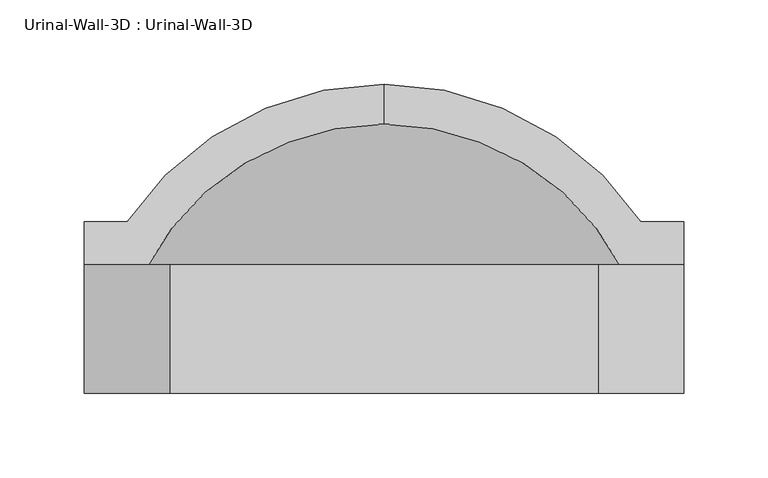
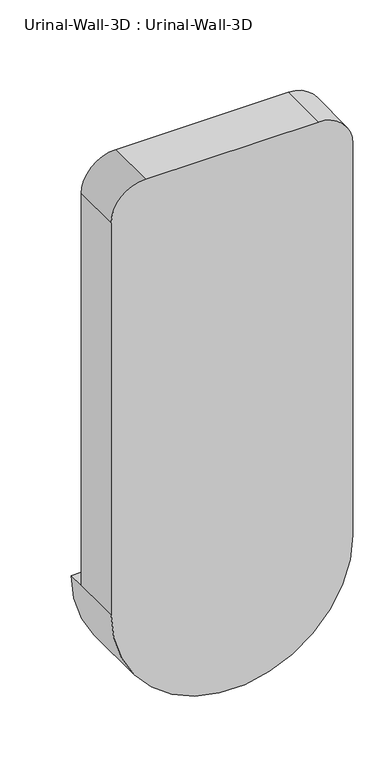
"""IFC4 building model written with IfcOpenShell, lengths in millimetres: flow terminal geometry, Urinal-Wall-3D : Urinal-Wall-3D."""

import ifcopenshell
import ifcopenshell.guid

model = None  # the IFC model being written
_history = None  # IfcOwnerHistory: only IFC2X3 demands one
_inside = {}  # id of a spatial element -> (the spatial element, [elements in it])
_under = {}  # id of a project, library or spatial element -> (it, [spatial elements below it])
_declared = {}  # id of a project -> (the project, [libraries it declares])
_typed = {}  # id of a type object -> (the type object, [elements of that type])
_made_of = {}  # id of a material, layer set ... -> (it, [elements and type objects made of it])


def new_model(schema):
    """Start an empty IFC model of exactly this schema.

    Asked for "IFC4X3", IfcOpenShell would pick the latest addendum, in which some entities
    have other attributes; the version numbers below select the first issue.
    IFC2X3 requires an IfcOwnerHistory on every rooted entity: one is made here for all.
    """
    global model, _history
    if schema == "IFC4X3":
        model = ifcopenshell.file(schema_version=(4, 3, 0, 0))
    else:
        model = ifcopenshell.file(schema=schema)
    _inside.clear()
    _under.clear()
    _declared.clear()
    _typed.clear()
    _made_of.clear()
    _history = None
    if model.schema == "IFC2X3":
        org = make("IfcOrganization", Name="unknown")
        user = make(
            "IfcPersonAndOrganization",
            ThePerson=make("IfcPerson", FamilyName="unknown"),
            TheOrganization=org,
        )
        app = make(
            "IfcApplication",
            ApplicationDeveloper=org,
            Version="unknown",
            ApplicationFullName="unknown",
            ApplicationIdentifier="unknown",
        )
        _history = make(
            "IfcOwnerHistory",
            OwningUser=user,
            OwningApplication=app,
            ChangeAction="ADDED",
            CreationDate=0,
        )
    return model


def make(cls, **values):
    """One entity of the class cls with the attributes given. An attribute that is None is left unset."""
    return model.create_entity(
        cls, **{name: value for name, value in values.items() if value is not None}
    )


def rooted(cls, **values):
    """An entity with a GlobalId (a new one), such as an element, a storey or a relation."""
    return make(cls, GlobalId=ifcopenshell.guid.new(), OwnerHistory=_history, **values)


def si_unit(unit_type, name, prefix=None):
    """IfcSIUnit, for example si_unit("LENGTHUNIT", "METRE", prefix="MILLI")."""
    return make("IfcSIUnit", UnitType=unit_type, Prefix=prefix, Name=name)


def assignment(units):
    """IfcUnitAssignment: the units of a project."""
    return None if units is None else make("IfcUnitAssignment", Units=units)


def point(xyz):
    """IfcCartesianPoint."""
    return None if xyz is None else make("IfcCartesianPoint", Coordinates=xyz)


def direction(xyz):
    """IfcDirection."""
    return None if xyz is None else make("IfcDirection", DirectionRatios=xyz)


def frame(location, z_axis=None, x_axis=None):
    """IfcAxis2Placement3D, a coordinate frame: its origin and axes. An axis left out is left unset."""
    return make(
        "IfcAxis2Placement3D",
        Location=point(location),
        Axis=direction(z_axis),
        RefDirection=direction(x_axis),
    )


def origin():
    """The frame at (0, 0, 0) with its axes left unset."""
    return frame((0.0, 0.0, 0.0))


def place(relative_to, where):
    """IfcLocalPlacement: puts the frame where relative to a parent placement (None: the world)."""
    return make(
        "IfcLocalPlacement", PlacementRelTo=relative_to, RelativePlacement=where
    )


def context(
    kind, dimensions, precision=None, world=None, true_north=None, identifier=None
):
    """IfcGeometricRepresentationContext, for example the 3D "Model" context."""
    return make(
        "IfcGeometricRepresentationContext",
        ContextIdentifier=identifier,
        ContextType=kind,
        CoordinateSpaceDimension=dimensions,
        Precision=precision,
        WorldCoordinateSystem=world,
        TrueNorth=true_north,
    )


def project(units=None, contexts=None):
    """IfcProject with its units and contexts."""
    return rooted(
        "IfcProject",
        Name="project",
        RepresentationContexts=contexts,
        UnitsInContext=assignment(units),
    )


def spatial(cls, under=None, at=None, **own):
    """A site, building, storey or space (cls), placed at a placement, below another one or the project."""
    s = rooted(cls, ObjectPlacement=at, **own)
    if under is not None:
        _under.setdefault(under.id(), (under, []))[1].append(s)
    return s


def polyline(points):
    """IfcPolyline through the points."""
    return make("IfcPolyline", Points=[point(p) for p in points])


def circle_curve(where, radius):
    """IfcCircle in the frame where."""
    return make("IfcCircle", Position=where, Radius=radius)


def ellipse_curve(where, semi_axis1, semi_axis2):
    """IfcEllipse in the frame where."""
    return make(
        "IfcEllipse", Position=where, SemiAxis1=semi_axis1, SemiAxis2=semi_axis2
    )


def trimmed(basis, trim1, trim2, sense, master):
    """IfcTrimmedCurve: the piece of a basis curve between two trims."""
    return make(
        "IfcTrimmedCurve",
        BasisCurve=basis,
        Trim1=trim1,
        Trim2=trim2,
        SenseAgreement=sense,
        MasterRepresentation=master,
    )


def shape(context_of_items, identifier, shape_type, items):
    """IfcShapeRepresentation: the items that make up one representation, for example the "Body"."""
    return make(
        "IfcShapeRepresentation",
        ContextOfItems=context_of_items,
        RepresentationIdentifier=identifier,
        RepresentationType=shape_type,
        Items=items,
    )


def source(mapping_origin, context_of_items, identifier, shape_type, items):
    """IfcRepresentationMap: a shape defined once, which mapped items show again and again."""
    return make(
        "IfcRepresentationMap",
        MappingOrigin=mapping_origin,
        MappedRepresentation=shape(context_of_items, identifier, shape_type, items),
    )


def transform(
    local_origin,
    x_axis=None,
    y_axis=None,
    z_axis=None,
    scale=None,
    scale2=None,
    scale3=None,
    uniform=True,
):
    """IfcCartesianTransformationOperator3D, or its non-uniform kind. x_axis, y_axis, z_axis: its Axis1, 2, 3."""
    if uniform:
        return make(
            "IfcCartesianTransformationOperator3D",
            Axis1=direction(x_axis),
            Axis2=direction(y_axis),
            LocalOrigin=point(local_origin),
            Scale=scale,
            Axis3=direction(z_axis),
        )
    return make(
        "IfcCartesianTransformationOperator3DnonUniform",
        Axis1=direction(x_axis),
        Axis2=direction(y_axis),
        LocalOrigin=point(local_origin),
        Scale=scale,
        Axis3=direction(z_axis),
        Scale2=scale2,
        Scale3=scale3,
    )


def mapped(mapping_source, mapping_target):
    """IfcMappedItem: shows the shape of a source again, moved by a transform."""
    return make(
        "IfcMappedItem", MappingSource=mapping_source, MappingTarget=mapping_target
    )


def made_of(thing, what):
    """Note that an element or type object is made of a material, layer set ...; save() writes the relation."""
    if what is not None:
        _made_of.setdefault(what.id(), (what, []))[1].append(thing)
    return thing


def element(
    cls,
    number,
    at=None,
    inside=None,
    cuts=None,
    type_object=None,
    material=None,
    context=None,
    identifier="Body",
    shape_type=None,
    held_by="IfcProductDefinitionShape",
    body=None,
    shapes=None,
    **own,
):
    """One element of the class cls, such as IfcWall. Its Tag is "e" and its number.

    at: its placement. inside: the storey or other place that contains it. cuts: it is an
    opening in that element (IfcRelVoidsElement). A single representation is given by context,
    identifier, shape_type and body (its items); several are given by shapes. held_by: the class
    of the entity that holds the representations. save() writes the other relations.
    """
    e = rooted(cls, Tag="e%d" % number, ObjectPlacement=at, **own)
    if body is not None:
        shapes = [shape(context, identifier, shape_type, body)]
    if shapes is not None:
        e.Representation = make(held_by, Representations=shapes)
    if inside is not None:
        _inside.setdefault(inside.id(), (inside, []))[1].append(e)
    if cuts is not None:
        rooted(
            "IfcRelVoidsElement", RelatingBuildingElement=cuts, RelatedOpeningElement=e
        )
    if type_object is not None:
        _typed.setdefault(type_object.id(), (type_object, []))[1].append(e)
    return made_of(e, material)


def aggregate(whole, parts):
    """IfcRelAggregates: a whole, such as a stair, and the parts it consists of."""
    return rooted("IfcRelAggregates", RelatingObject=whole, RelatedObjects=parts)


def save(model, path):
    """Write the relations noted so far, then the file.

    IfcRelAggregates (storeys below a building ...), IfcRelContainedInSpatialStructure (elements
    in a storey), IfcRelDefinesByType, IfcRelAssociatesMaterial and IfcRelDeclares: one each for
    every whole, place, type object, material and project.
    """
    for whole, parts in _under.values():
        aggregate(whole, parts)
    for where, things in _inside.values():
        rooted(
            "IfcRelContainedInSpatialStructure",
            RelatedElements=things,
            RelatingStructure=where,
        )
    for kind, things in _typed.values():
        rooted("IfcRelDefinesByType", RelatedObjects=things, RelatingType=kind)
    for what, things in _made_of.values():
        rooted("IfcRelAssociatesMaterial", RelatedObjects=things, RelatingMaterial=what)
    for by, libraries in _declared.values():
        rooted("IfcRelDeclares", RelatingContext=by, RelatedDefinitions=libraries)
    model.write(path)


def plane_surface(at):
    """IfcPlane: the flat surface through the origin of the frame at, square to its z axis."""
    return make("IfcPlane", Position=at)


def cylinder_surface(at, radius):
    """IfcCylindricalSurface: all points at the distance radius from the z axis of the frame at."""
    return make("IfcCylindricalSurface", Position=at, Radius=radius)


def revolved_surface(curve, axis_point, axis_direction):
    """IfcSurfaceOfRevolution: the curve turned about the line through axis_point along axis_direction."""
    return make(
        "IfcSurfaceOfRevolution",
        SweptCurve=make("IfcArbitraryOpenProfileDef", ProfileType="CURVE", Curve=curve),
        AxisPosition=make("IfcAxis1Placement", Location=point(axis_point), Axis=direction(axis_direction)),
    )


def advanced_brep(points, edges, surfaces, faces):
    """IfcAdvancedBrep: a solid bounded by faces that lie on surfaces and meet in shared edges.

    An edge is (start, end): straight between two places in points (the first is 0);
    or (start, end, curve); or (start, end, curve, False) where it runs against its curve.
    A face is (place in surfaces, loops), or (place, loops, False) where it looks against
    its surface's normal. A loop lists edges by number (the first is 1), with a minus sign
    where the edge is run from its end to its start. The first loop is the outer one.
    """
    corners = [point(p) for p in points]
    vertices = [make("IfcVertexPoint", VertexGeometry=c) for c in corners]
    made = []
    for start, end, *more in edges:
        made.append(
            make(
                "IfcEdgeCurve",
                EdgeStart=vertices[start],
                EdgeEnd=vertices[end],
                EdgeGeometry=more[0] if more else make("IfcPolyline", Points=[corners[start], corners[end]]),
                SameSense=more[1] if len(more) > 1 else True,
            )
        )
    hull = []
    for where, loops, *sense in faces:
        bounds = []
        for j, loop in enumerate(loops):
            ring = [make("IfcOrientedEdge", EdgeElement=made[abs(k) - 1], Orientation=k > 0) for k in loop]
            bounds.append(
                make(
                    "IfcFaceOuterBound" if j == 0 else "IfcFaceBound",
                    Bound=make("IfcEdgeLoop", EdgeList=ring),
                    Orientation=True,
                )
            )
        hull.append(make("IfcAdvancedFace", Bounds=bounds, FaceSurface=surfaces[where], SameSense=sense[0] if sense else True))
    return make("IfcAdvancedBrep", Outer=make("IfcClosedShell", CfsFaces=hull))


def urinal_wall_3d_urinal_wall_3d_4de3570e(model_context):
    return source(origin(), model_context, "Body", "AdvancedBrep", [
        advanced_brep(
        [(-109.0745999, 183.1620048, 609.6), (-109.0745999, 159.4447043, 609.6), (43.3254001, 46.8706063, 609.6), (43.3254001, 76.2, 609.6), (68.7254001, 76.2, 609.6), (68.7254001, 101.6, 609.6), (43.3254001, 101.6, 609.6), (-261.4745999, 101.6, 609.6), (-286.8745999, 101.6, 609.6), (-286.8745999, 76.2, 609.6), (-261.4745999, 76.2, 609.6), (-261.4745999, 46.8706063, 609.6), (-261.4745999, 12.7, 609.6), (43.3254001, 12.7, 609.6), (-286.8745999, 0.0, 609.6), (68.7254001, 0.0, 609.6), (68.7254001, 0.0, 1219.2), (17.9254001, 0.0, 1270.0), (-236.0745999, 0.0, 1270.0), (-286.8745999, 0.0, 1219.2), (43.3254001, 76.2, 1168.4), (-7.4745999, 76.2, 1219.2), (-210.6745999, 76.2, 1219.2), (-261.4745999, 76.2, 1168.4), (-286.8745999, 76.2, 1219.2), (-236.0745999, 76.2, 1270.0), (17.9254001, 76.2, 1270.0), (68.7254001, 76.2, 1219.2), (43.3254001, 12.7, 1168.4), (-7.4745999, 12.7, 1219.2), (-210.6745999, 12.7, 1219.2), (-261.4745999, 12.7, 1168.4)],
        [
            (0, 1),
            (1, 2, circle_curve(frame((-109.0745999, 0.0, 609.6), z_axis=(0.0, 0.0, -1.0), x_axis=(1.0, 0.0, 0.0)), 159.4447043)),
            (2, 3),
            (3, 4),
            (4, 5),
            (5, 6),
            (6, 0, circle_curve(frame((-109.0745999, 0.0, 609.6), z_axis=(0.0, 0.0, 1.0), x_axis=(1.0, 0.0, 0.0)), 183.1620048)),
            (0, 7, circle_curve(frame((-109.0745999, 0.0, 609.6), z_axis=(0.0, 0.0, 1.0), x_axis=(-1.0, 0.0, 0.0)), 183.1620048)),
            (7, 8),
            (8, 9),
            (9, 10),
            (10, 11),
            (11, 1, circle_curve(frame((-109.0745999, 0.0, 609.6), z_axis=(0.0, 0.0, -1.0), x_axis=(-1.0, 0.0, 0.0)), 159.4447043)),
            (11, 2, circle_curve(frame((-109.0745999, 46.8706063, 609.6), z_axis=(0.0, -1.0, 0.0), x_axis=(1.0, 0.0, 0.0)), 152.4)),
            (11, 12),
            (12, 13, circle_curve(frame((-109.0745999, 12.7, 609.6), z_axis=(0.0, -1.0, 0.0), x_axis=(1.0, 0.0, 0.0)), 152.4)),
            (13, 2),
            (14, 15, circle_curve(frame((-109.0745999, 0.0, 609.6), z_axis=(0.0, -1.0, 0.0), x_axis=(1.0, 0.0, 0.0)), 177.8)),
            (15, 16),
            (16, 17, circle_curve(frame((17.9254001, 0.0, 1219.2), z_axis=(0.0, -1.0, 0.0), x_axis=(-1.0, 0.0, 0.0)), 50.8)),
            (17, 18),
            (18, 19, circle_curve(frame((-236.0745999, 0.0, 1219.2), z_axis=(0.0, -1.0, 0.0), x_axis=(-1.0, 0.0, 0.0)), 50.8)),
            (19, 14),
            (14, 9),
            (8, 5, circle_curve(frame((-109.0745999, 101.6, 609.6), z_axis=(0.0, -1.0, 0.0), x_axis=(1.0, 0.0, 0.0)), 177.8)),
            (4, 15),
            (7, 6, circle_curve(frame((-109.0745999, 101.6, 609.6), z_axis=(0.0, -1.0, 0.0), x_axis=(1.0, 0.0, 0.0)), 152.4)),
            (3, 20),
            (20, 21, circle_curve(frame((-7.4745999, 76.2, 1168.4), z_axis=(0.0, -1.0, 0.0), x_axis=(-1.0, 0.0, 0.0)), 50.8)),
            (21, 22),
            (22, 23, circle_curve(frame((-210.6745999, 76.2, 1168.4), z_axis=(0.0, -1.0, 0.0), x_axis=(-1.0, 0.0, 0.0)), 50.8)),
            (23, 10),
            (9, 24),
            (24, 25, circle_curve(frame((-236.0745999, 76.2, 1219.2), z_axis=(0.0, 1.0, 0.0), x_axis=(-1.0, 0.0, 0.0)), 50.8)),
            (25, 26),
            (26, 27, circle_curve(frame((17.9254001, 76.2, 1219.2), z_axis=(0.0, 1.0, 0.0), x_axis=(-1.0, 0.0, 0.0)), 50.8)),
            (27, 4),
            (13, 28),
            (28, 20),
            (28, 29, circle_curve(frame((-7.4745999, 12.7, 1168.4), z_axis=(0.0, -1.0, 0.0), x_axis=(-1.0, 0.0, 0.0)), 50.8)),
            (29, 21),
            (29, 30),
            (30, 22),
            (30, 31, circle_curve(frame((-210.6745999, 12.7, 1168.4), z_axis=(0.0, -1.0, 0.0), x_axis=(-1.0, 0.0, 0.0)), 50.8)),
            (31, 23),
            (31, 12),
            (19, 24),
            (18, 25),
            (17, 26),
            (16, 27),
        ],
        [
            plane_surface(frame((-109.0745999, 289.2104173, 609.6), z_axis=(0.0, 0.0, 1.0), x_axis=(1.0, 0.0, 0.0))),
            plane_surface(frame((-109.0745999, 289.2104173, 609.6), z_axis=(0.0, 0.0, 1.0), x_axis=(-1.0, 0.0, 0.0))),
            revolved_surface(trimmed(ellipse_curve(frame((-109.0745999, 0.0, 609.6), z_axis=(0.0, 0.0, -1.0), x_axis=(1.0, 0.0, 0.0)), 159.4447043, 159.4447043), [point((-109.0745999, 159.4447043, 609.6))], [point((43.3254001, 46.8706063, 609.6))], True, "CARTESIAN"), (-109.0745999, 289.2104173, 609.6), (0.0, 1.0, 0.0)),
            revolved_surface(polyline([(43.32540010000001, 46.87060629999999, 609.6), (43.32540010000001, 12.699999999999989, 609.6)]), (-109.0745999, 289.2104173, 609.6), (0.0, 1.0, 0.0)),
            plane_surface(frame((-109.0745999, 0.0, 609.6), z_axis=(0.0, -1.0, 0.0), x_axis=(1.0, 0.0, 0.0))),
            cylinder_surface(frame((-109.0745999, 289.2104173, 609.6), z_axis=(0.0, 1.0, 0.0), x_axis=(1.0, 0.0, 0.0)), 177.8),
            plane_surface(frame((-109.0745999, 101.6, 609.6), z_axis=(0.0, 1.0, 0.0), x_axis=(1.0, 0.0, 0.0))),
            revolved_surface(trimmed(ellipse_curve(frame((-109.0745999, 0.0, 609.6), z_axis=(0.0, 0.0, 1.0), x_axis=(1.0, 0.0, 0.0)), 183.1620048, 183.1620048), [point((43.3254001, 101.6, 609.6))], [point((-109.0745999, 183.1620048, 609.6))], True, "CARTESIAN"), (-109.0745999, 289.2104173, 609.6), (0.0, 1.0, 0.0)),
            plane_surface(frame((43.3254001, 76.2, 609.6), z_axis=(0.0, 1.0, 0.0), x_axis=(0.0, 0.0, 1.0))),
            plane_surface(frame((43.3254001, 76.2, 609.6), z_axis=(-1.0, 0.0, 0.0), x_axis=(0.0, -1.0, 0.0))),
            revolved_surface(polyline([(-58.2745999, 12.7, 1168.4), (-58.2745999, 76.2, 1168.4)]), (-7.4745999, 0.0, 1168.4), (0.0, -1.0, 0.0)),
            plane_surface(frame((-7.4745999, 76.2, 1219.2), z_axis=(0.0, 0.0, -1.0), x_axis=(0.0, -1.0, 0.0))),
            revolved_surface(polyline([(-261.4745999, 12.7, 1168.4), (-261.4745999, 76.2, 1168.4)]), (-210.6745999, 0.0, 1168.4), (0.0, -1.0, 0.0)),
            plane_surface(frame((-261.4745999, 76.2, 1168.4), z_axis=(1.0, 0.0, 0.0), x_axis=(0.0, -1.0, 0.0))),
            plane_surface(frame((-286.8745999, 76.2, 609.6), z_axis=(-1.0, 0.0, 0.0), x_axis=(0.0, -1.0, 0.0))),
            cylinder_surface(frame((-236.0745999, 0.0, 1219.2), z_axis=(0.0, 1.0, 0.0), x_axis=(-1.0, 0.0, 0.0)), 50.8),
            plane_surface(frame((-236.0745999, 76.2, 1270.0), z_axis=(0.0, 0.0, 1.0), x_axis=(0.0, -1.0, 0.0))),
            cylinder_surface(frame((17.9254001, 0.0, 1219.2), z_axis=(0.0, 1.0, 0.0), x_axis=(-1.0, 0.0, 0.0)), 50.8),
            plane_surface(frame((68.7254001, 76.2, 1219.2), z_axis=(1.0, 0.0, 0.0), x_axis=(0.0, -1.0, 0.0))),
            plane_surface(frame((43.3254001, 12.7, 609.6), z_axis=(0.0, 1.0, 0.0), x_axis=(0.0, 0.0, -1.0))),
        ],
        [
            (0, [[1, 2, 3, 4, 5, 6, 7]]),
            (1, [[-1, 8, 9, 10, 11, 12, 13]]),
            (2, [[-2, -13, 14]]),
            (3, [[-14, 15, 16, 17]]),
            (4, [[18, 19, 20, 21, 22, 23]]),
            (5, [[-18, 24, -10, 25, -5, 26]]),
            (6, [[-6, -25, -9, 27]]),
            (7, [[-7, -27, -8]]),
            (8, [[28, 29, 30, 31, 32, -11, 33, 34, 35, 36, 37, -4]]),
            (9, [[-28, -3, -17, 38, 39]]),
            (10, [[-29, -39, 40, 41]]),
            (11, [[-30, -41, 42, 43]]),
            (12, [[-31, -43, 44, 45]]),
            (13, [[-32, -45, 46, -15, -12]]),
            (14, [[-33, -24, -23, 47]]),
            (15, [[-34, -47, -22, 48]]),
            (16, [[-35, -48, -21, 49]]),
            (17, [[-36, -49, -20, 50]]),
            (18, [[-37, -50, -19, -26]]),
            (19, [[-16, -46, -44, -42, -40, -38]]),
        ],
    ),
    ])


if __name__ == "__main__":
    model = new_model("IFC4")
    model_context = context("Model", 3, world=origin())
    ifc_project = project(units=[si_unit("LENGTHUNIT", "METRE", prefix="MILLI")], contexts=[model_context])
    site = spatial("IfcSite", under=ifc_project)
    building = spatial("IfcBuilding", under=site)
    placement = place(None, origin())
    urinal_wall_3d_urinal_wall_3d_shape = urinal_wall_3d_urinal_wall_3d_4de3570e(model_context)
    element("IfcFlowTerminal", 1, ObjectType="Urinal-Wall-3D : Urinal-Wall-3D", at=placement, inside=building, context=model_context, shape_type="MappedRepresentation", body=[
        mapped(urinal_wall_3d_urinal_wall_3d_shape, transform((0.0, 0.0, 0.0), x_axis=(1.0, 0.0, 0.0), y_axis=(0.0, 1.0, 0.0), z_axis=(0.0, 0.0, 1.0))),
    ])
    save(model, "model.ifc")
